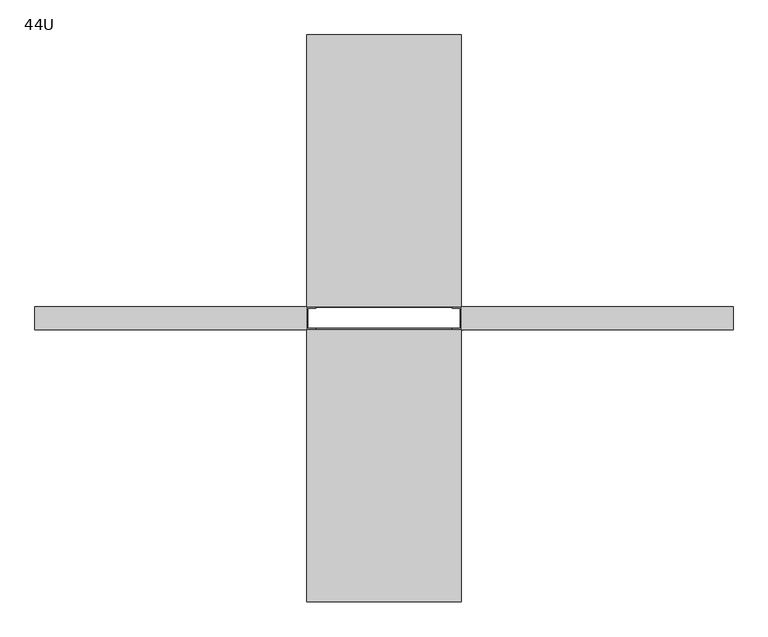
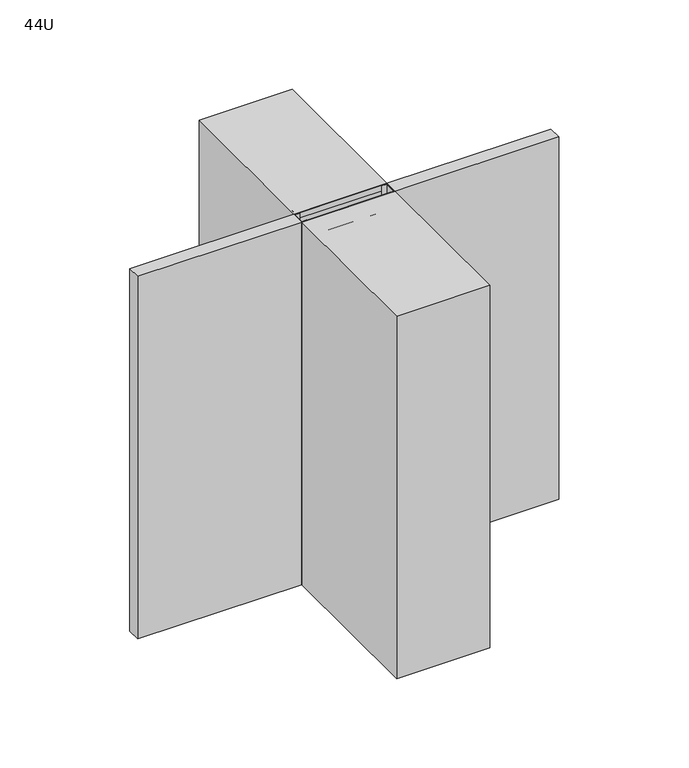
"""IFC4 building model written with IfcOpenShell, lengths in millimetres: electric appliance geometry, Rack-2_Post-Corning-CDF : 44U."""

from ifc_helpers import new_model, si_unit, frame, origin, origin_with_axes, place, context, project, spatial, polyline, outline, extrude, source, transform, mapped, element, save


def electric_appliance_44u_5c7a93dd(model_context):
    return source(origin(), model_context, "Body", "SweptSolid", [
        extrude(outline(polyline([(262.255, -72.0668001), (-252.095, -72.0668001), (-252.095, -70.5428001), (262.255, -70.5428001), (262.255, -72.0668001)])), frame((0.0, 0.0, 2069.973), z_axis=(0.0, 0.0, 1.0), x_axis=(1.0, 0.0, 0.0)), (0.0, 0.0, 1.0), 63.5),
        extrude(outline(polyline([(-258.826, 5.6571999), (-229.108, 5.6571999), (-229.108, 0.775735), (-255.651, 0.775735), (-255.651, -65.7168001), (-229.108, -65.7168001), (-229.108, -70.5428001), (-258.826, -70.5428001), (-258.826, 5.6571999)])), origin_with_axes(), (0.0, 0.0, 1.0), 2133.473),
        extrude(outline(polyline([(258.826, 5.6571999), (258.826, -70.5428001), (229.108, -70.5428001), (229.108, -65.7168001), (255.651, -65.7168001), (255.651, 0.8311999), (229.108, 0.8311999), (229.108, 5.6571999), (258.826, 5.6571999)])), origin_with_axes(), (0.0, 0.0, 1.0), 2133.473),
        extrude(outline(polyline([(5.6571999, 2132.203), (37.4071999, 2132.203), (37.4071999, 2129.028), (8.8321999, 2129.028), (8.8321999, 2101.4189334), (5.6571999, 2101.4189334), (5.6571999, 2132.203)])), frame((-250.825, 0.0, 0.0), z_axis=(1.0, 0.0, 0.0), x_axis=(0.0, 1.0, 0.0)), (0.0, 0.0, 1.0), 501.65),
        extrude(outline(polyline([(158.0571999, 7.9248), (158.0571999, 0.0), (5.6571999, 0.0), (5.6571999, 85.7158874), (13.5819999, 85.7158874), (13.5819999, 7.9248), (158.0571999, 7.9248)])), frame((-250.825, 0.0, 0.0), z_axis=(1.0, 0.0, 0.0), x_axis=(0.0, 1.0, 0.0)), (0.0, 0.0, 1.0), 501.65),
        extrude(outline(polyline([(-222.9428001, 7.9248), (-78.4676001, 7.9248), (-78.4676001, 85.7158874), (-70.5428001, 85.7158874), (-70.5428001, 0.0), (-222.9428001, 0.0), (-222.9428001, 7.9248)])), frame((-250.825, 0.0, 0.0), z_axis=(1.0, 0.0, 0.0), x_axis=(0.0, 1.0, 0.0)), (0.0, 0.0, 1.0), 501.65),
        extrude(outline(polyline([(-191.1928001, 2078.609), (-191.1928001, 2133.473), (-189.6688001, 2133.473), (-189.6688001, 2080.133), (-73.6290976, 2080.133), (-72.0668001, 2080.133), (-72.0668001, 2078.609), (-191.1928001, 2078.609)])), frame((-185.42, 0.0, 0.0), z_axis=(1.0, 0.0, 0.0), x_axis=(0.0, 1.0, 0.0)), (0.0, 0.0, 1.0), 139.7),
        extrude(outline(polyline([(-191.1928001, 2078.609), (-191.1928001, 2133.473), (-189.6688001, 2133.473), (-189.6688001, 2080.133), (-73.6231243, 2080.133), (-72.0668001, 2080.133), (-72.0668001, 2078.609), (-191.1928001, 2078.609)])), frame((55.88, 0.0, 0.0), z_axis=(1.0, 0.0, 0.0), x_axis=(0.0, 1.0, 0.0)), (0.0, 0.0, 1.0), 139.7),
        extrude(outline(polyline([(258.826, -70.5428001), (258.826, -984.9428001), (-258.826, -984.9428001), (-258.826, -70.5428001), (258.826, -70.5428001)])), origin_with_axes(), (0.0, 0.0, 1.0), 2134.4389334),
        extrude(outline(polyline([(-1173.226, 5.6571999), (-258.826, 5.6571999), (-258.826, -70.5428001), (-1173.226, -70.5428001), (-1173.226, 5.6571999)])), origin_with_axes(), (0.0, 0.0, 1.0), 2134.4389334),
        extrude(outline(polyline([(1173.226, 5.6571999), (1173.226, -70.5428001), (258.826, -70.5428001), (258.826, 5.6571999), (1173.226, 5.6571999)])), origin_with_axes(), (0.0, 0.0, 1.0), 2134.4389334),
        extrude(outline(polyline([(258.826, 920.0571999), (258.826, 5.6571999), (-258.826, 5.6571999), (-258.826, 920.0571999), (258.826, 920.0571999)])), origin_with_axes(), (0.0, 0.0, 1.0), 2134.4389334),
        extrude(outline(polyline([(117.5823071, 235.9481591), (117.5823071, 237.7066206), (120.8794225, 237.7066206), (120.8794225, 239.4650821), (122.637884, 239.4650821), (122.637884, 237.7066206), (131.4301917, 236.3877744), (122.637884, 229.573736), (120.8794225, 229.573736), (120.8794225, 235.9481591), (117.5823071, 235.9481591)]), holes=[polyline([(122.637884, 235.9481591), (122.637884, 231.737468), (128.0712554, 235.9481591), (122.637884, 235.9481591)])]), frame((0.0, -73.7178001, 0.0), z_axis=(0.0, 1.0, 0.0), x_axis=(0.0, 0.0, 1.0)), (0.0, 0.0, 1.0), 3.175),
        extrude(outline(polyline([(117.5823071, 246.718736), (117.5823071, 248.4771975), (120.8794225, 248.4771975), (120.8794225, 250.2356591), (122.637884, 250.2356591), (122.637884, 248.4771975), (131.4301917, 247.1583514), (122.637884, 240.3443129), (120.8794225, 240.3443129), (120.8794225, 246.718736), (117.5823071, 246.718736)]), holes=[polyline([(122.637884, 246.718736), (122.637884, 242.5080449), (128.0712554, 246.718736), (122.637884, 246.718736)])]), frame((0.0, -73.7178001, 0.0), z_axis=(0.0, 1.0, 0.0), x_axis=(0.0, 0.0, 1.0)), (0.0, 0.0, 1.0), 3.175),
        extrude(outline(polyline([(295.9737177, 235.8545652), (295.9737177, 237.6130267), (299.2708331, 237.6130267), (299.2708331, 239.3714882), (301.0292946, 239.3714882), (301.0292946, 237.6130267), (309.8216023, 236.2941805), (301.0292946, 229.4801421), (299.2708331, 229.4801421), (299.2708331, 235.8545652), (295.9737177, 235.8545652)]), holes=[polyline([(301.0292946, 235.8545652), (301.0292946, 231.6438741), (306.462666, 235.8545652), (301.0292946, 235.8545652)])]), frame((0.0, -73.7178001, 0.0), z_axis=(0.0, 1.0, 0.0), x_axis=(0.0, 0.0, 1.0)), (0.0, 0.0, 1.0), 3.175),
        extrude(outline(polyline([(302.8942255, 240.9101421), (297.0933631, 242.3114161), (295.75391, 245.5261036), (296.5249542, 248.1002578), (298.8638454, 249.6303254), (302.8942255, 250.1420652), (306.1999271, 249.8226571), (308.2812312, 248.9983783), (309.5880566, 247.5799317), (310.04141, 245.5261036), (309.2755176, 242.962253), (306.9417781, 241.4270336), (302.8942255, 240.9101421)]), holes=[polyline([(302.89766, 242.6686036), (307.3418968, 243.5203584), (308.2829485, 245.5054966), (307.2148205, 247.5868007), (302.89766, 248.3836036), (298.5341339, 247.5593248), (297.5123715, 245.5261036), (298.5306994, 243.4928825), (302.89766, 242.6686036)])]), frame((0.0, -73.7178001, 0.0), z_axis=(0.0, 1.0, 0.0), x_axis=(0.0, 0.0, 1.0)), (0.0, 0.0, 1.0), 3.175),
        extrude(outline(polyline([(742.3213941, 229.6224477), (739.4673286, 231.0202872), (738.3648556, 234.1044639), (739.6562258, 237.5080487), (742.8022234, 238.8543708), (745.0895972, 238.1812097), (746.2916705, 236.2647614), (747.4559644, 237.7072494), (749.0770461, 238.1949477), (750.8509629, 237.6814907), (752.1698091, 236.1977887), (752.6523556, 234.076988), (751.6735245, 231.2813089), (748.9156249, 229.8422554), (748.6958172, 231.6007169), (750.3443749, 232.4627752), (750.8938941, 234.1388089), (748.9740113, 236.4364862), (747.4216195, 235.5503864), (746.9373556, 233.2733161), (745.3712258, 234.3105336), (744.6516991, 236.3094098), (742.8331339, 237.0959092), (740.9029476, 236.3025408), (740.1233172, 234.1662848), (740.6900089, 232.3511541), (742.5412018, 231.3809092), (742.3213941, 229.6224477)])), frame((0.0, -73.7178001, 0.0), z_axis=(0.0, 1.0, 0.0), x_axis=(0.0, 0.0, 1.0)), (0.0, 0.0, 1.0), 3.175),
        extrude(outline(polyline([(745.5051711, 240.3930246), (739.7043088, 241.7942987), (738.3648556, 245.0089862), (739.1358998, 247.5831403), (741.474791, 249.1132079), (745.5051711, 249.6249477), (748.8108728, 249.3055396), (750.8921769, 248.4812608), (752.1990023, 247.0628143), (752.6523556, 245.0089862), (751.8864632, 242.4451355), (749.5527237, 240.9099161), (745.5051711, 240.3930246)]), holes=[polyline([(745.5086056, 242.1514862), (749.9528424, 243.003241), (750.8938941, 244.9883792), (749.8257661, 247.0696833), (745.5086056, 247.8664862), (741.1450795, 247.0422073), (740.1233172, 245.0089862), (741.141645, 242.975765), (745.5086056, 242.1514862)])]), frame((0.0, -73.7178001, 0.0), z_axis=(0.0, 1.0, 0.0), x_axis=(0.0, 0.0, 1.0)), (0.0, 0.0, 1.0), 3.175),
        extrude(outline(polyline([(1185.6451364, 239.5120906), (1186.5398224, 233.3986892), (1188.2313113, 235.4216069), (1190.6406096, 237.9408091), (1192.3647262, 238.9797439), (1194.0321736, 239.2922829), (1196.8278527, 238.1331408), (1197.9543671, 234.985426), (1196.9411911, 231.8480146), (1193.9978287, 230.4999752), (1193.778021, 232.2584368), (1195.553655, 232.9985705), (1196.1959056, 234.9476465), (1195.5381998, 236.8177292), (1193.9257043, 237.5338214), (1191.9336971, 236.774798), (1189.0040727, 233.7387042), (1186.9656998, 231.5371928), (1183.8866748, 230.2801676), (1183.8866748, 239.5120906), (1185.6451364, 239.5120906)])), frame((0.0, -73.7178001, 0.0), z_axis=(0.0, 1.0, 0.0), x_axis=(0.0, 0.0, 1.0)), (0.0, 0.0, 1.0), 3.175),
        extrude(outline(polyline([(1190.8071827, 241.2705522), (1185.0063203, 242.6718262), (1183.6668671, 245.8865137), (1184.4379113, 248.4606679), (1186.7768025, 249.9907355), (1190.8071827, 250.5024752), (1194.1128843, 250.1830672), (1196.1941884, 249.3587883), (1197.5010138, 247.9403418), (1197.9543671, 245.8865137), (1197.1884747, 243.322663), (1194.8547352, 241.7874437), (1190.8071827, 241.2705522)]), holes=[polyline([(1190.8106171, 243.0290137), (1195.2548539, 243.8807685), (1196.1959056, 245.8659067), (1195.1277776, 247.9472108), (1190.8106171, 248.7440137), (1186.447091, 247.9197349), (1185.4253287, 245.8865137), (1186.4436565, 243.8532926), (1190.8106171, 243.0290137)])]), frame((0.0, -73.7178001, 0.0), z_axis=(0.0, 1.0, 0.0), x_axis=(0.0, 0.0, 1.0)), (0.0, 0.0, 1.0), 3.175),
        extrude(outline(polyline([(1627.8234635, 235.9294872), (1641.8911558, 234.7961038), (1640.0193559, 233.2316912), (1638.3742327, 230.6541026), (1636.711937, 230.6541026), (1637.5997541, 232.5052955), (1638.7863721, 234.1710257), (1627.8234635, 234.1710257), (1627.8234635, 235.9294872)])), frame((0.0, -73.7178001, 0.0), z_axis=(0.0, 1.0, 0.0), x_axis=(0.0, 0.0, 1.0)), (0.0, 0.0, 1.0), 3.175),
        extrude(outline(polyline([(1634.7439713, 240.1058333), (1628.9431089, 241.5071074), (1627.6036558, 244.7217949), (1628.3747, 247.295949), (1630.7135912, 248.8260166), (1634.7439713, 249.3377564), (1638.0496729, 249.0183484), (1640.130977, 248.1940695), (1641.4378024, 246.775623), (1641.8911558, 244.7217949), (1641.1252634, 242.1579442), (1638.7915239, 240.6227249), (1634.7439713, 240.1058333)]), holes=[polyline([(1634.7474058, 241.8642949), (1639.1916426, 242.7160497), (1640.1326943, 244.7011879), (1639.0645663, 246.782492), (1634.7474058, 247.5792949), (1630.3838797, 246.755016), (1629.3621173, 244.7217949), (1630.3804452, 242.6885737), (1634.7474058, 241.8642949)])]), frame((0.0, -73.7178001, 0.0), z_axis=(0.0, 1.0, 0.0), x_axis=(0.0, 0.0, 1.0)), (0.0, 0.0, 1.0), 3.175),
        extrude(outline(polyline([(2028.697906, 244.6586145), (2042.7655983, 243.5252311), (2040.8937984, 241.9608185), (2039.2486752, 239.3832299), (2037.5863795, 239.3832299), (2038.4741965, 241.2344228), (2039.6608146, 242.900153), (2028.697906, 242.900153), (2028.697906, 244.6586145)])), frame((0.0, -73.7178001, 0.0), z_axis=(0.0, 1.0, 0.0), x_axis=(0.0, 0.0, 1.0)), (0.0, 0.0, 1.0), 3.175),
        extrude(outline(polyline([(229.108, -70.5428001), (-229.108, -70.5428001), (-229.108, -66.4788001), (229.108, -66.4788001), (229.108, -70.5428001)])), origin_with_axes(), (0.0, 0.0, 1.0), 2133.473),
    ])


if __name__ == "__main__":
    model = new_model("IFC4")
    model_context = context("Model", 3, world=origin())
    ifc_project = project(units=[si_unit("LENGTHUNIT", "METRE", prefix="MILLI")], contexts=[model_context])
    site = spatial("IfcSite", under=ifc_project)
    building = spatial("IfcBuilding", under=site)
    placement = place(None, origin())
    electric_appliance_44u_shape = electric_appliance_44u_5c7a93dd(model_context)
    element("IfcElectricAppliance", 1, ObjectType="Rack-2_Post-Corning-CDF : 44U", at=placement, inside=building, context=model_context, shape_type="MappedRepresentation", body=[
        mapped(electric_appliance_44u_shape, transform((0.0, 0.0, 0.0), x_axis=(1.0, 0.0, 0.0), y_axis=(0.0, 1.0, 0.0), z_axis=(0.0, 0.0, 1.0))),
    ])
    save(model, "model.ifc")
